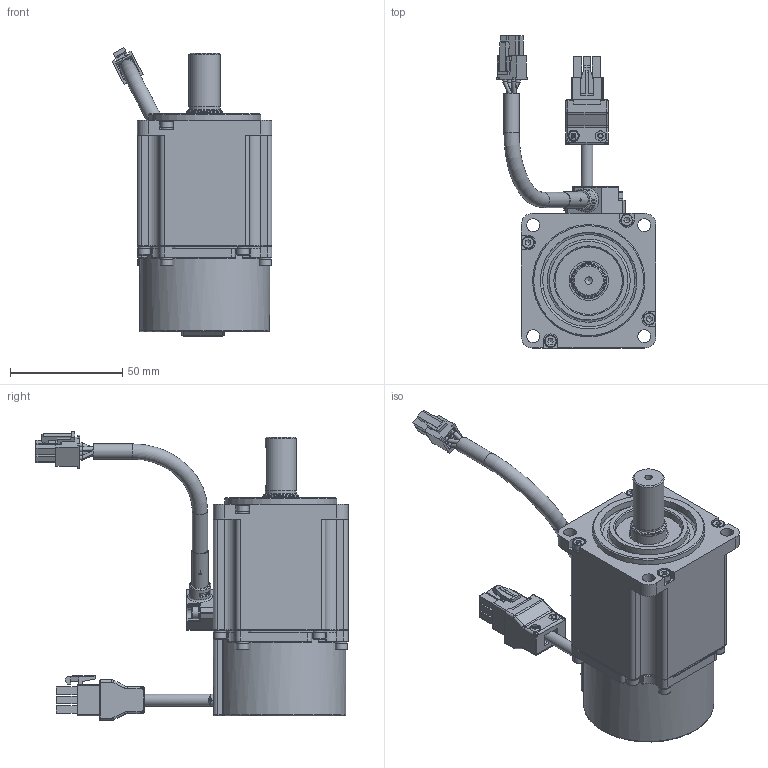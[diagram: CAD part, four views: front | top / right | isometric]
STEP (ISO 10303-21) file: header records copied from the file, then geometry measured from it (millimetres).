
FILE_DESCRIPTION(/* description */ (''),/* implementation_level */ '2;1');
FILE_NAME(/* name */ 'C:\Users\11755\Desktop\SME(磁編)\SME(磁編)_馬達外型圖(客戶版)\3D-STP\SME-L020(磁編).stp',/* time_stamp */ '2021-07-30T11:20:14+08:00',/* author */ ('11755'),/* organization */ (''),/* preprocessor_version */ 'ST-DEVELOPER v17',/* originating_system */ 'Autodesk Inventor 2019',/* authorisation */ '');
FILE_SCHEMA (('AUTOMOTIVE_DESIGN { 1 0 10303 214 3 1 1 }'));
Products named in the file (1): SME-L020(磁編)_20201202_Shrinkwrap_1
Bounding box: 71.31 x 139.11 x 128.61 mm (x, y, z)
Volume: 304005.5 mm3; surface area: 47200.2 mm2
Topology: 2 solids, 10 shells, 1462 faces, 4088 edges, 2682 vertices
Faces by surface type: plane 869, cylinder 320, cone 84, bspline 80, torus 73, sphere 36
Full cylindrical faces by diameter (mm): 1.2 x4, 1.5 x4, 1.6 x4, 2 x4, 2.459 x2, 2.6 x9, 3.3 x1, 5 x2, 5.3 x1, 5.32 x14, 5.5 x14, 5.8 x4, 6.1 x1, 6.8 x2, 7.2 x1, 9.6 x1, 13.8 x1, 14 x1, 15.8 x2, 16 x1, 17.5 x1, 30 x1, 35 x1, 43 x1, 50 x1
Entity records: 57089 total; most frequent: CARTESIAN_POINT 18314, ORIENTED_EDGE 8102, DIRECTION 7524, EDGE_CURVE 4052, VERTEX_POINT 2680, AXIS2_PLACEMENT_3D 2576, LINE 2372, VECTOR 2372
